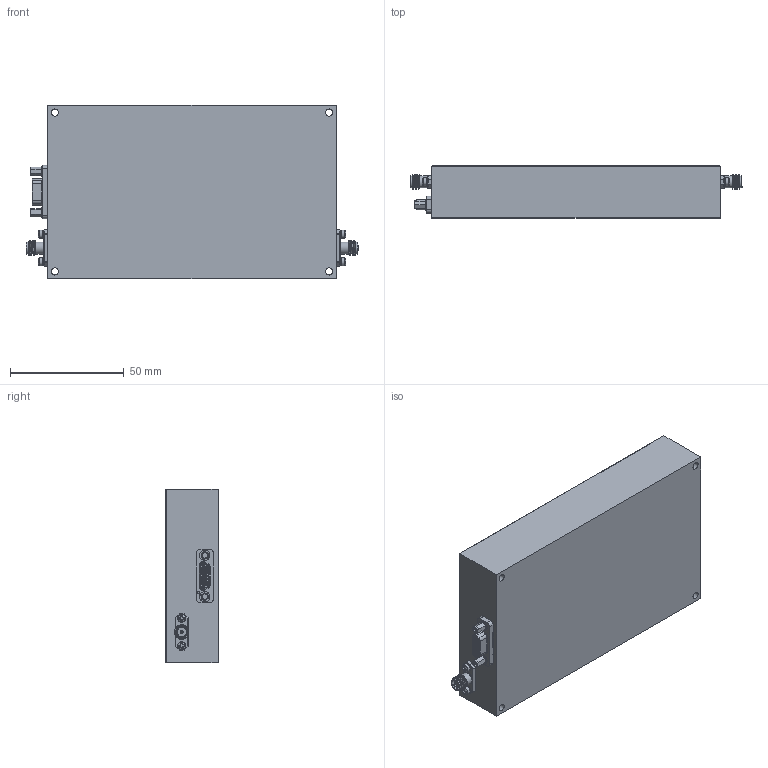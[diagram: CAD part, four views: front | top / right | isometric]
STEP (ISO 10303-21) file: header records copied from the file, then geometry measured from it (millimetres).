
FILE_DESCRIPTION (( 'STEP AP214' ), '1' );
FILE_NAME ('PS-1G4G-180-A-SFF.STEP', '2026-08-18T15:48:05', ( '' ), ( '' ), 'SwSTEP 2.0', 'SolidWorks 2025', '' );
FILE_SCHEMA (( 'AUTOMOTIVE_DESIGN' ));
Length unit declared in the file: inch
Products named in the file (1): PS-1G4G-180-A-SFF
Bounding box: 146.05 x 22.99 x 76.2 mm (x, y, z)
Volume: 223274 mm3; surface area: 51337.6 mm2
Topology: 21 solids, 21 shells, 1143 faces, 3682 edges, 2744 vertices
Faces by surface type: plane 481, cylinder 336, torus 144, cone 78, sphere 66, bspline 38
Full cylindrical faces by diameter (mm): 0.508 x2, 0.762 x2, 1.016 x2, 1.27 x2, 1.778 x6, 2.184 x12, 2.311 x2, 2.591 x4, 3.175 x4, 3.302 x2, 3.556 x4, 4.191 x4, 4.597 x2, 5.283 x4
Entity records: 63192 total; most frequent: CARTESIAN_POINT 16734, ORIENTED_EDGE 6864, DIRECTION 6294, EDGE_CURVE 3432, VERTEX_POINT 2692, AXIS2_PLACEMENT_3D 2302, LINE 1690, VECTOR 1690
